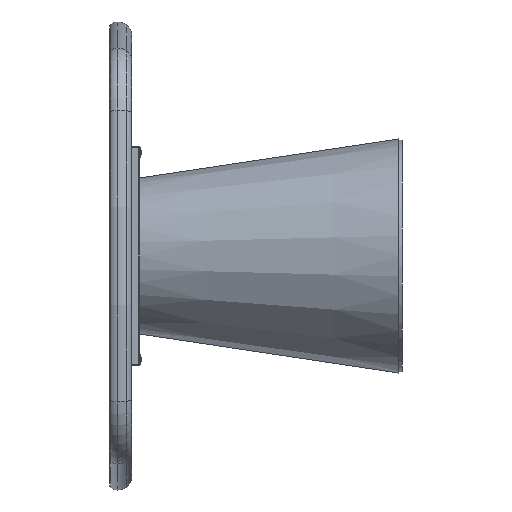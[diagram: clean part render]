
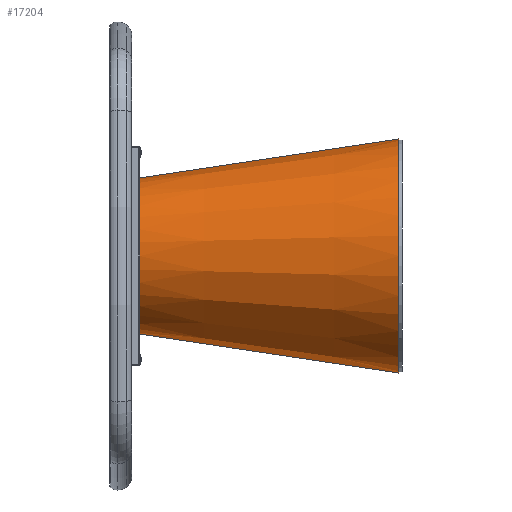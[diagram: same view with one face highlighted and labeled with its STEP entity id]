
A CAD part, left-side view. The second image highlights one B-rep face of the part: STEP entity #17204.
In plain terms, the highlighted conical face has half-angle 8.552 degrees and reference radius 200 mm.
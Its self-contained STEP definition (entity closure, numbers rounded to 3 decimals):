
#369 = DIRECTION ( 'NONE',  ( 0., 1., 0. ) ) ;
#606 = CARTESIAN_POINT ( 'NONE',  ( 0., 673., -200. ) ) ;
#1460 = ORIENTED_EDGE ( 'NONE', *, *, #8959, .T. ) ;
#2277 = DIRECTION ( 'NONE',  ( 0., -1., 0. ) ) ;
#2715 = VERTEX_POINT ( 'NONE', #11611 ) ;
#3320 = CARTESIAN_POINT ( 'NONE',  ( 0., 8., 0. ) ) ;
#3400 = DIRECTION ( 'NONE',  ( 0., -0.989, 0.149 ) ) ;
#4001 = EDGE_CURVE ( 'NONE', #16367, #14637, #11717, .T. ) ;
#4090 = VECTOR ( 'NONE', #3400, 1000. ) ;
#4876 = FACE_OUTER_BOUND ( 'NONE', #10363, .T. ) ;
#5478 = CIRCLE ( 'NONE', #13721, 200. ) ;
#6584 = CARTESIAN_POINT ( 'NONE',  ( 0., 673., -200. ) ) ;
#6701 = CARTESIAN_POINT ( 'NONE',  ( 0., 673., 0. ) ) ;
#7704 = DIRECTION ( 'NONE',  ( 0., 0., -1. ) ) ;
#8038 = ORIENTED_EDGE ( 'NONE', *, *, #13446, .F. ) ;
#8959 = EDGE_CURVE ( 'NONE', #14637, #2715, #10550, .T. ) ;
#9341 = CARTESIAN_POINT ( 'NONE',  ( 0., 8., -300. ) ) ;
#10363 = EDGE_LOOP ( 'NONE', ( #15677, #8038, #10907, #1460 ) ) ;
#10550 = CIRCLE ( 'NONE', #13394, 300. ) ;
#10907 = ORIENTED_EDGE ( 'NONE', *, *, #4001, .T. ) ;
#11403 = DIRECTION ( 'NONE',  ( 0., 0., 1. ) ) ;
#11496 = LINE ( 'NONE', #15579, #4090 ) ;
#11611 = CARTESIAN_POINT ( 'NONE',  ( 0., 8., 300. ) ) ;
#11717 = LINE ( 'NONE', #606, #14985 ) ;
#12643 = CONICAL_SURFACE ( 'NONE', #14919, 200., 0.149 ) ;
#13394 = AXIS2_PLACEMENT_3D ( 'NONE', #3320, #369, #11403 ) ;
#13446 = EDGE_CURVE ( 'NONE', #16367, #14247, #5478, .T. ) ;
#13721 = AXIS2_PLACEMENT_3D ( 'NONE', #6701, #17248, #16265 ) ;
#13778 = CARTESIAN_POINT ( 'NONE',  ( 0., 673., 200. ) ) ;
#14247 = VERTEX_POINT ( 'NONE', #13778 ) ;
#14530 = EDGE_CURVE ( 'NONE', #14247, #2715, #11496, .T. ) ;
#14637 = VERTEX_POINT ( 'NONE', #9341 ) ;
#14919 = AXIS2_PLACEMENT_3D ( 'NONE', #15790, #2277, #7704 ) ;
#14985 = VECTOR ( 'NONE', #17038, 1000. ) ;
#15579 = CARTESIAN_POINT ( 'NONE',  ( 0., 673., 200. ) ) ;
#15677 = ORIENTED_EDGE ( 'NONE', *, *, #14530, .F. ) ;
#15790 = CARTESIAN_POINT ( 'NONE',  ( 0., 673., 0. ) ) ;
#16265 = DIRECTION ( 'NONE',  ( 0., 0., 1. ) ) ;
#16367 = VERTEX_POINT ( 'NONE', #6584 ) ;
#17038 = DIRECTION ( 'NONE',  ( 0., -0.989, -0.149 ) ) ;
#17204 = ADVANCED_FACE ( 'NONE', ( #4876 ), #12643, .T. ) ;
#17248 = DIRECTION ( 'NONE',  ( 0., 1., 0. ) ) ;
